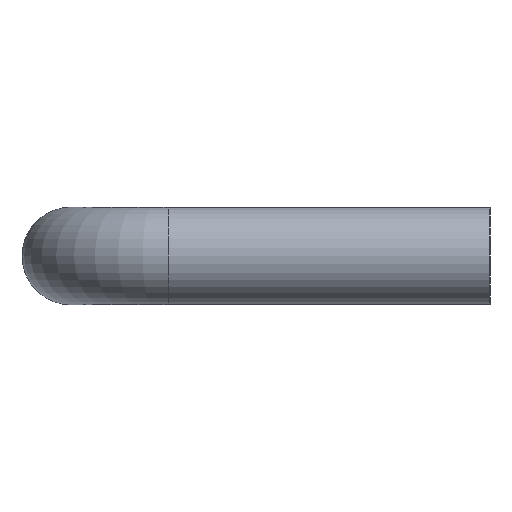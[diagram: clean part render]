
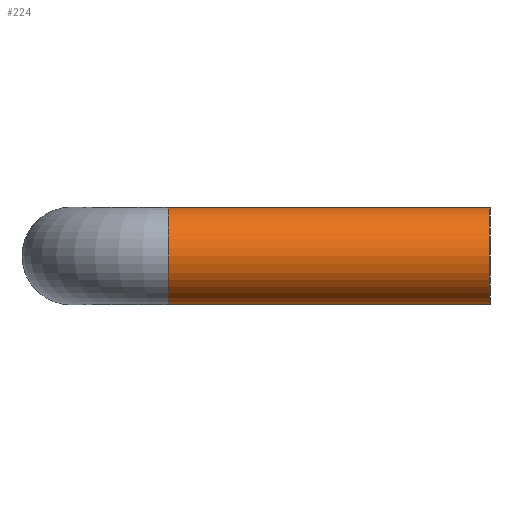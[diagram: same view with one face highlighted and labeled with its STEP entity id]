
A CAD part, left-side view. The second image highlights one B-rep face of the part: STEP entity #224.
In plain terms, the highlighted cylindrical face has radius 2.5 mm (diameter 5 mm), a full revolution.
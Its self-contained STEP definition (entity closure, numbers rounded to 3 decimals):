
#49=CYLINDRICAL_SURFACE('',#273,2.5);
#62=FACE_OUTER_BOUND('',#77,.T.);
#77=EDGE_LOOP('',(#204,#205,#206,#207));
#86=LINE('',#412,#95);
#95=VECTOR('',#347,2.5);
#100=CIRCLE('',#252,2.5);
#111=CIRCLE('',#272,2.5);
#121=VERTEX_POINT('',#372);
#132=VERTEX_POINT('',#408);
#139=EDGE_CURVE('',#121,#121,#100,.T.);
#156=EDGE_CURVE('',#132,#132,#111,.T.);
#157=EDGE_CURVE('',#132,#121,#86,.T.);
#204=ORIENTED_EDGE('',*,*,#156,.F.);
#205=ORIENTED_EDGE('',*,*,#157,.T.);
#206=ORIENTED_EDGE('',*,*,#139,.T.);
#207=ORIENTED_EDGE('',*,*,#157,.F.);
#224=ADVANCED_FACE('',(#62),#49,.T.);
#252=AXIS2_PLACEMENT_3D('',#373,#297,#298);
#272=AXIS2_PLACEMENT_3D('',#410,#343,#344);
#273=AXIS2_PLACEMENT_3D('',#411,#345,#346);
#297=DIRECTION('center_axis',(0.,1.,0.));
#298=DIRECTION('ref_axis',(-1.,0.,0.));
#343=DIRECTION('center_axis',(0.,1.,0.));
#344=DIRECTION('ref_axis',(-1.,0.,0.));
#345=DIRECTION('center_axis',(0.,1.,0.));
#346=DIRECTION('ref_axis',(-1.,0.,0.));
#347=DIRECTION('',(0.,-1.,0.));
#372=CARTESIAN_POINT('',(-25.,0.,0.));
#373=CARTESIAN_POINT('Origin',(-27.5,0.,0.));
#408=CARTESIAN_POINT('',(-25.,16.5,0.));
#410=CARTESIAN_POINT('Origin',(-27.5,16.5,0.));
#411=CARTESIAN_POINT('Origin',(-27.5,0.,0.));
#412=CARTESIAN_POINT('',(-25.,0.,0.));
